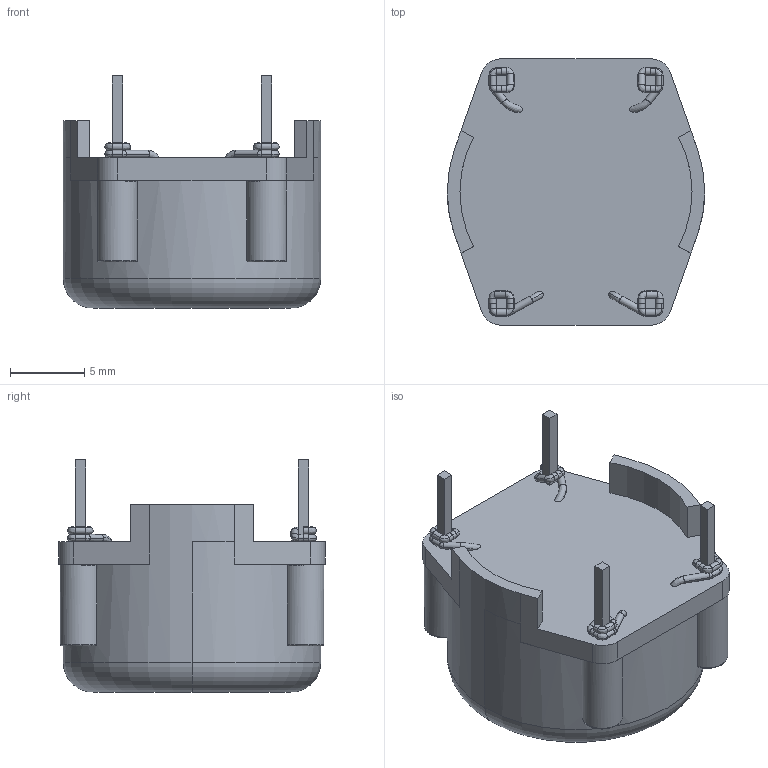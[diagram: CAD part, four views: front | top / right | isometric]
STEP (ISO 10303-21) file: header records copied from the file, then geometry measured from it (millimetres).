
FILE_DESCRIPTION((''),'2;1');
FILE_NAME('B82721A_V06_PUBLIC_TDK-PC','2021-05-12T',('ED9263'),(''),'CREO PARAMETRIC BY PTC INC, 2018220','CREO PARAMETRIC BY PTC INC, 2018220','');
FILE_SCHEMA(('AUTOMOTIVE_DESIGN { 1 0 10303 214 1 1 1 1 }'));
Length unit declared in the file: millimetre
Products named in the file (1): B82721A_V06_PUBLIC_TDK-PC
Bounding box: 17.3 x 17.9 x 15.6 mm (x, y, z)
Volume: 2519.1 mm3; surface area: 1307.3 mm2
Topology: 1 solids, 1 shells, 248 faces, 618 edges, 332 vertices
Faces by surface type: cylinder 92, bspline 90, plane 44, torus 14, sphere 8
Entity records: 12752 total; most frequent: CARTESIAN_POINT 4749, ORIENTED_EDGE 1140, DIRECTION 1116, EDGE_CURVE 570, AXIS2_PLACEMENT_3D 466, FILL_AREA_STYLE_COLOUR 384, FILL_AREA_STYLE 384, SURFACE_STYLE_FILL_AREA 384
